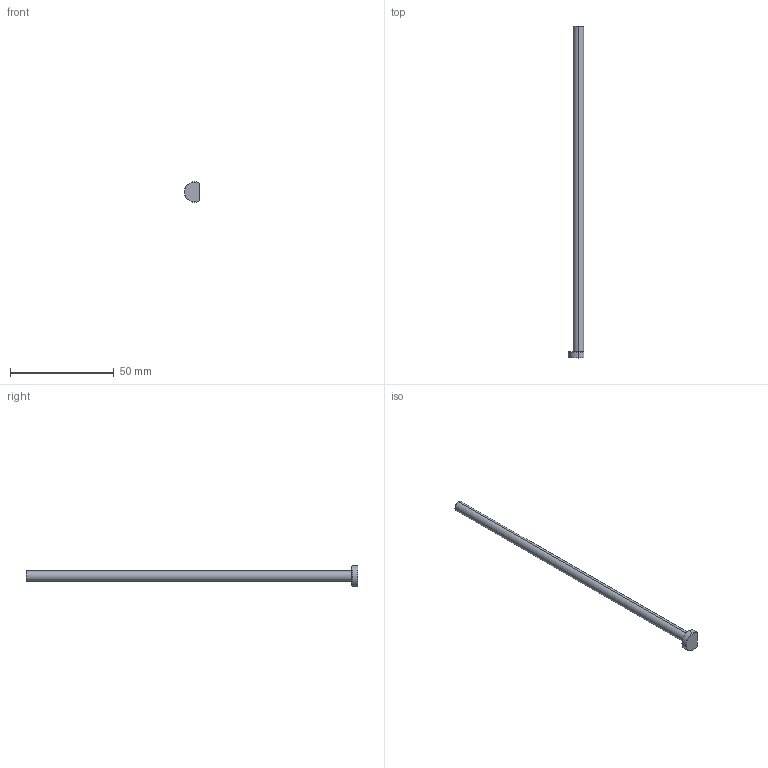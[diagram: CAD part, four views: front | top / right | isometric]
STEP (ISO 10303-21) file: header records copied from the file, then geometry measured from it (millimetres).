
FILE_DESCRIPTION (( 'STEP AP203' ), '1' );
FILE_NAME ('EPD05L160-K.step', '2022-04-08T18:59:02', ( 'Microsoft Corporation' ), ( 'MS' ), 'SwSTEP 2.0', 'SolidWorks 2019', '' );
FILE_SCHEMA (( 'CONFIG_CONTROL_DESIGN' ));
Length unit declared in the file: millimetre
Products named in the file (1): EPD05L160-K
Bounding box: 7.5 x 160 x 10 mm (x, y, z)
Volume: 3271.5 mm3; surface area: 2675 mm2
Topology: 1 solids, 1 shells, 18 faces, 41 edges, 25 vertices
Faces by surface type: cone 6, cylinder 5, plane 4, torus 3
Entity records: 598 total; most frequent: CARTESIAN_POINT 107, DIRECTION 95, ORIENTED_EDGE 82, AXIS2_PLACEMENT_3D 41, EDGE_CURVE 41, VERTEX_POINT 25, CIRCLE 22, ADVANCED_FACE 18
